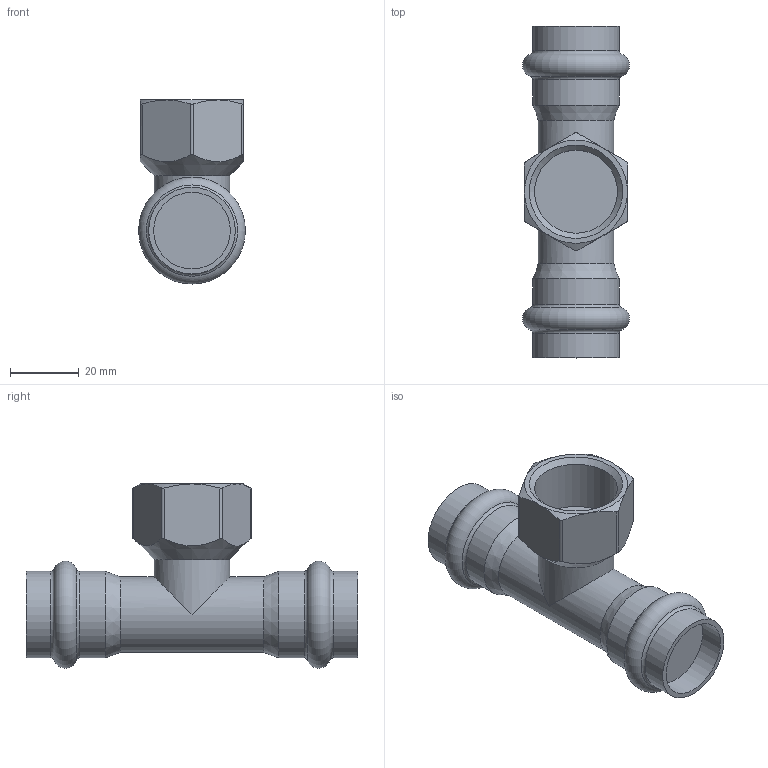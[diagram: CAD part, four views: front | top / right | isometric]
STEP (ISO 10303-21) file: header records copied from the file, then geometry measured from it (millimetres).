
FILE_DESCRIPTION(('STEP AP203'), '1');
FILE_NAME('VTi.932.I.220522', '', ('UNSPECIFIED'), ('UNSPECIFIED'), 'C3D Converter', 'C3D Toolkit', '');
FILE_SCHEMA(('CONFIG_CONTROL_DESIGN'));
Length unit declared in the file: millimetre
Bounding box: 31.08 x 96.5 x 53.54 mm (x, y, z)
Volume: 50679.4 mm3; surface area: 14276 mm2
Topology: 1 solids, 1 shells, 43 faces, 95 edges, 57 vertices
Faces by surface type: cylinder 15, plane 12, cone 10, torus 6
Full cylindrical faces by diameter (mm): 22 x2, 22.3 x2, 24.118 x1, 25.2 x4
Entity records: 2069 total; most frequent: CARTESIAN_POINT 1214, DIRECTION 156, ORIENTED_EDGE 150, EDGE_CURVE 75, AXIS2_PLACEMENT_3D 72, EDGE_LOOP 66, VERTEX_POINT 57, ADVANCED_FACE 43
